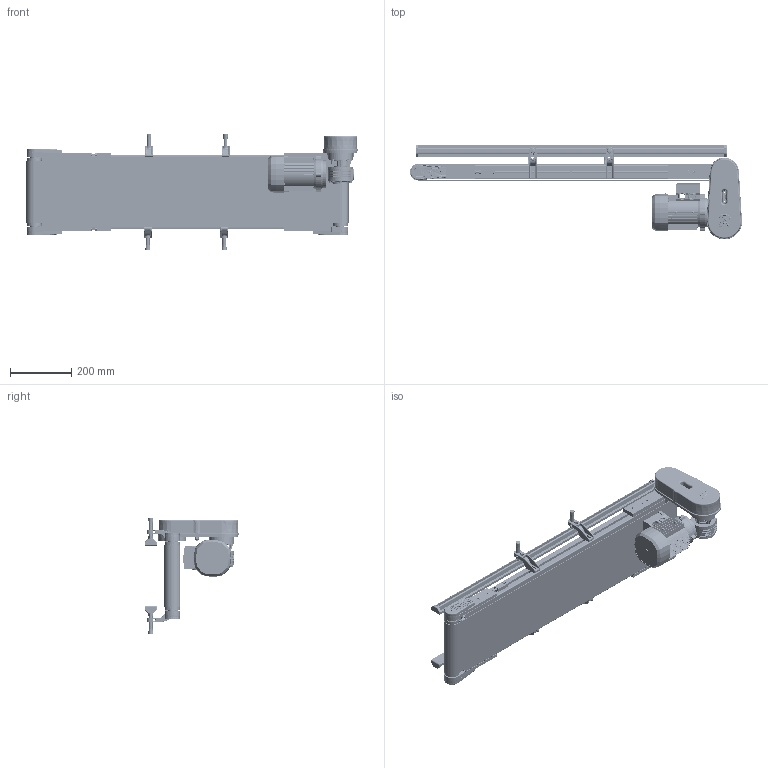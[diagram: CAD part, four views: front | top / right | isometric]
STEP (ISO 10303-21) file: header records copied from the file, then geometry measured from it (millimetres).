
FILE_DESCRIPTION (( 'STEP AP203' ), '1' );
FILE_NAME ('NASTRO_RETTILINEO_TAPPETO.step', '2026-06-06T00:30:11', ( 'Utente Windows' ), ( '' ), 'SwSTEP 2.0', 'SolidWorks 2024', '' );
FILE_SCHEMA (( 'CONFIG_CONTROL_DESIGN' ));
Length unit declared in the file: millimetre
Products named in the file (60): 084.802.021; SPONDA_Default<A macchina>; BLOCCO_RINVIO_50_STANDARD; VITI TSEI UNI 5933_M4x10 UNI 5933; 084.811.004; VITI TSEI UNI 5933_M5x12 UNI 5933; 084.711.006_L2; 08UNI7435; 084.810.010; 084.802.071; 084.810.004; 084.302.000 DADI ALUSIC 13x13_084.302.004; 084.711.010; BLOCCO_TRAINO_50_STANDARD; 084.301.000 VITI ALUSIC_084.301.009; 084.807.001_084.807.001; 084.809.001; 084.711.006_L1; LAMIERA_STANDARD; 084.802.017_084.802.017; RONDELLE FASCIA LARGA UNI 6593_5.4x20 UNI 6593; 084.711.006_PER CAVA 8 PERNO ALTO 1; VITI TSEI UNI 5933 INOX_0412UNI5933A2; VITE_RONDELLA_M8X20; 084.832.001; NASTRO_RETTILINEO_TAPPETO; 084.809.004; 084.810.001; 084.302.000 DADI ALUSIC 13x13-1_084.302.004; CUSCINETTI A SFERE_608-2RS; 084.803.014; BLOCCO_TRAINO_50_RINVIATO_CATENA_30_DX_MOTORE A DESTRA; TAPPETO_STANDARD; 084.803.012; TELAIO_50_STANDARD_Default<A macchina>; VITI TE UNI 5739_M6x16 UNI 5739; 084.802.008; 084.711.005; 084.813.006; 084.810.005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
Assembly tree (107 placements, depth 4):
  NASTRO_RETTILINEO_TAPPETO
    TAPPETO_STANDARD
    TELAIO_50_STANDARD_Default<A macchina>
    LAMIERA_STANDARD
    RULLO_50_Default<A macchina>  x2
    BLOCCO_PERNO_50_RINVIATO
      084.810.001
      084.813.001
      CHIAVETTE_A 8x7x25 UNI 6604-69
      CHIAVETTE_A 5x5x20 UNI 6604-69
    BLOCCO_TRAINO_50_RINVIATO_CATENA_30_DX_MOTORE A DESTRA
      084.802.034_084.802.034
      084.807.001_084.807.001
      084.803.014  x2
      084.809.004
      084.813.006
      084.802.021
      084.803.012
      084.809.001
      084.832.001
      084.810.005
        084.810.010
        084.810.004
        CUSCINETTI A SFERE_608-2RS  x2
        RONDELLE FASCIA LARGA UNI 6593_8.4x24 UNI 6593
        DADI ESAGONALI AUTOBLOCCANTI UNI 7473 INOX_08UNI7474-A2
        08UNI7435
      084.301.000 VITI ALUSIC_084.301.003  x2
      084.302.000 DADI ALUSIC 13x13-1_084.302.004  x2
      CHIAVETTE_A 5x5x50 UNI 6604-69
      VITI TE UNI 5739_M8x20 UNI 5739  x4
      VITI TE UNI 5739_M6x16 UNI 5739  x8
      RONDELLE FASCIA LARGA UNI 6593_5.4x20 UNI 6593
      084.301.000 VITI ALUSIC_084.301.009
    BLOCCO_PERNO_50_RINVIO  x3
      084.811.004
      084.810.001
    BLOCCO_TRAINO_50_STANDARD
      084.807.002_084.807.002
      084.802.017_084.802.017
      084.301.000 VITI ALUSIC_084.301.003  x2
      084.302.000 DADI ALUSIC 13x13-1_084.302.004  x2
      084.802.071
      VITI TSEI UNI 5933 INOX_0412UNI5933A2  x2
    BLOCCO_RINVIO_50_STANDARD  x2
      084.807.002_084.807.002
      084.802.017_084.802.017
      084.802.008
      084.301.000 VITI ALUSIC_084.301.003
      084.302.000 DADI ALUSIC 13x13_084.302.004
      VITI TSEI UNI 5933_M4x10 UNI 5933
      084.802.071
    SPONDA_Default<A macchina>  x2
    084.711.006_PER CAVA 8 PERNO ALTO 1  x4
      084.711.006_L1
      084.711.006_L2
      084.711.007
      084.711.005
      084.711.010
      DADI ESAGONALI NORMALI UNI 5588_M6 UNI 5588
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Bounding box: 1084.75 x 309.5 x 381.86 mm (x, y, z)
Volume: 6238910.5 mm3; surface area: 4170565.5 mm2
Topology: 185 solids, 188 shells, 10075 faces, 25222 edges, 15910 vertices
Faces by surface type: cylinder 3659, plane 3625, bspline 1175, cone 913, torus 592, sphere 111
Entity records: 238063 total; most frequent: CARTESIAN_POINT 78562, ORIENTED_EDGE 32452, DIRECTION 31285, EDGE_CURVE 16226, AXIS2_PLACEMENT_3D 12330, VERTEX_POINT 10321, EDGE_LOOP 7283, LINE 6625
